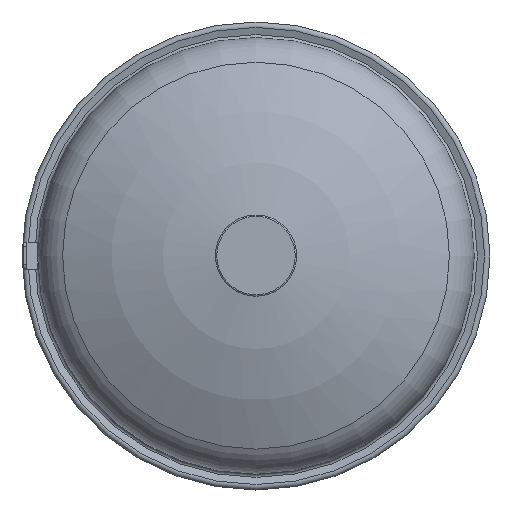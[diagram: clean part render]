
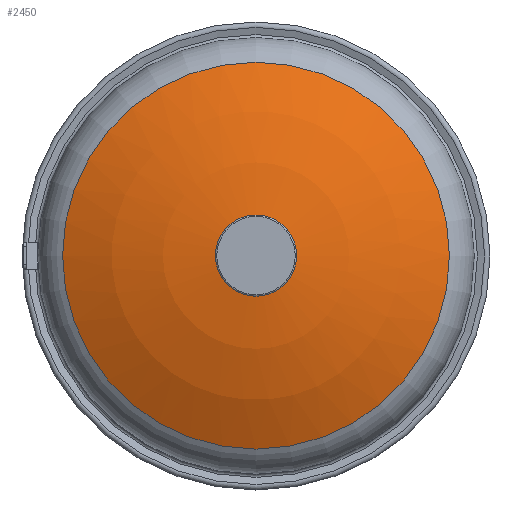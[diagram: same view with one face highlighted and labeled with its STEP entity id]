
A CAD part, top view. The second image highlights one B-rep face of the part: STEP entity #2450.
In plain terms, the highlighted spherical face has radius 481.55 mm.
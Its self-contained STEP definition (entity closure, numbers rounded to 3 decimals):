
#23=SPHERICAL_SURFACE('',#2658,481.55);
#189=FACE_OUTER_BOUND('',#328,.T.);
#328=EDGE_LOOP('',(#1852,#1853,#1854,#1855,#1856,#1857));
#964=CIRCLE('',#2656,45.);
#965=CIRCLE('',#2657,45.);
#966=CIRCLE('',#2659,481.55);
#967=CIRCLE('',#2660,214.524);
#968=CIRCLE('',#2661,214.524);
#1107=VERTEX_POINT('',#3789);
#1108=VERTEX_POINT('',#3791);
#1109=VERTEX_POINT('',#3795);
#1110=VERTEX_POINT('',#3797);
#1385=EDGE_CURVE('',#1107,#1108,#964,.T.);
#1386=EDGE_CURVE('',#1108,#1107,#965,.T.);
#1387=EDGE_CURVE('',#1107,#1109,#966,.T.);
#1388=EDGE_CURVE('',#1109,#1110,#967,.T.);
#1389=EDGE_CURVE('',#1110,#1109,#968,.T.);
#1852=ORIENTED_EDGE('',*,*,#1386,.F.);
#1853=ORIENTED_EDGE('',*,*,#1385,.F.);
#1854=ORIENTED_EDGE('',*,*,#1387,.T.);
#1855=ORIENTED_EDGE('',*,*,#1388,.T.);
#1856=ORIENTED_EDGE('',*,*,#1389,.T.);
#1857=ORIENTED_EDGE('',*,*,#1387,.F.);
#2450=ADVANCED_FACE('',(#189),#23,.T.);
#2656=AXIS2_PLACEMENT_3D('',#3792,#3052,#3053);
#2657=AXIS2_PLACEMENT_3D('',#3793,#3054,#3055);
#2658=AXIS2_PLACEMENT_3D('',#3794,#3056,#3057);
#2659=AXIS2_PLACEMENT_3D('',#3796,#3058,#3059);
#2660=AXIS2_PLACEMENT_3D('',#3798,#3060,#3061);
#2661=AXIS2_PLACEMENT_3D('',#3799,#3062,#3063);
#3052=DIRECTION('center_axis',(0.,0.,1.));
#3053=DIRECTION('ref_axis',(1.,0.,0.));
#3054=DIRECTION('center_axis',(0.,0.,1.));
#3055=DIRECTION('ref_axis',(1.,0.,0.));
#3056=DIRECTION('center_axis',(0.,0.,1.));
#3057=DIRECTION('ref_axis',(1.,0.,0.));
#3058=DIRECTION('center_axis',(0.,-1.,0.));
#3059=DIRECTION('ref_axis',(-1.,0.,0.));
#3060=DIRECTION('center_axis',(0.,0.,1.));
#3061=DIRECTION('ref_axis',(1.,0.,0.));
#3062=DIRECTION('center_axis',(0.,0.,1.));
#3063=DIRECTION('ref_axis',(1.,0.,0.));
#3789=CARTESIAN_POINT('',(-45.,0.,522.938));
#3791=CARTESIAN_POINT('',(45.,0.,522.938));
#3792=CARTESIAN_POINT('Origin',(0.,0.,522.938));
#3793=CARTESIAN_POINT('Origin',(0.,0.,522.938));
#3794=CARTESIAN_POINT('Origin',(0.,0.,43.496));
#3795=CARTESIAN_POINT('',(-214.524,0.,474.622));
#3796=CARTESIAN_POINT('Origin',(0.,0.,43.496));
#3797=CARTESIAN_POINT('',(214.524,0.,474.622));
#3798=CARTESIAN_POINT('Origin',(0.,0.,474.622));
#3799=CARTESIAN_POINT('Origin',(0.,0.,474.622));
